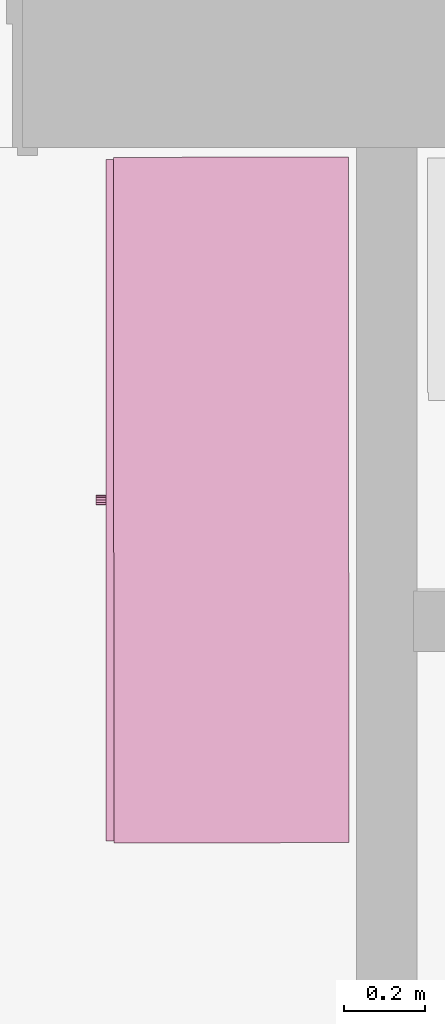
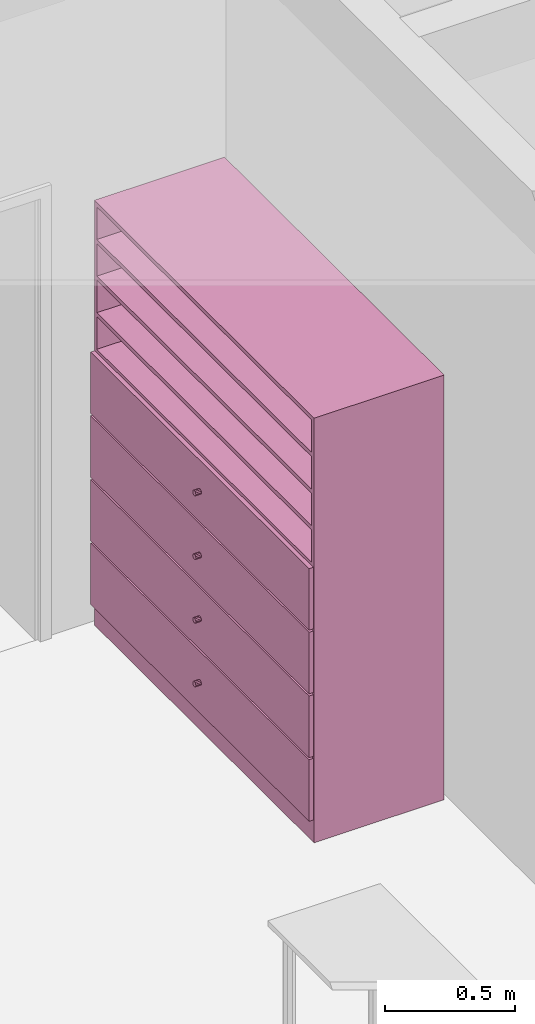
# One storey, part 139 of 194: 1 furnishing.
"""IFC2X3 building model written with IfcOpenShell, lengths in millimetres."""

from ifc_helpers import new_model, entity, si_unit, converted_unit, derived_unit, money_unit, direction, frame, origin_with_axes, place, context, subcontext, project, spatial, faceted_brep, source, transform, mapped, type_object, element, save


model = new_model("IFC2X3")

# Units and contexts
model_context = context("Model", 3, precision=1e-05, world=origin_with_axes(), true_north=direction((0.0, 1.0)))
body_context = subcontext(model_context, "Body", "Model", "MODEL_VIEW")
ifc_project = project(units=[si_unit("LENGTHUNIT", "METRE", prefix="MILLI"), si_unit("AREAUNIT", "SQUARE_METRE"), si_unit("VOLUMEUNIT", "CUBIC_METRE"), converted_unit("PLANEANGLEUNIT", "DEGREE", entity("IfcPlaneAngleMeasure", 0.0174532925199), si_unit("PLANEANGLEUNIT", "RADIAN"), dimensions=[0, 0, 0, 0, 0, 0, 0]), si_unit("SOLIDANGLEUNIT", "STERADIAN"), money_unit("EUR"), converted_unit("TIMEUNIT", "Year", entity("IfcTimeMeasure", 31556926.0), si_unit("TIMEUNIT", "SECOND"), dimensions=[0, 0, 1, 0, 0, 0, 0]), si_unit("MASSUNIT", "GRAM", prefix="KILO"), si_unit("THERMODYNAMICTEMPERATUREUNIT", "DEGREE_CELSIUS"), si_unit("LUMINOUSINTENSITYUNIT", "LUMEN"), si_unit("ENERGYUNIT", "JOULE", prefix="MEGA"), derived_unit("THERMALCONDUCTANCEUNIT", [(si_unit("POWERUNIT", "WATT"), 1), (si_unit("LENGTHUNIT", "METRE"), -1), (si_unit("THERMODYNAMICTEMPERATUREUNIT", "KELVIN"), -1)]), derived_unit("SPECIFICHEATCAPACITYUNIT", [(si_unit("ENERGYUNIT", "JOULE"), 1), (si_unit("MASSUNIT", "GRAM", prefix="KILO"), -1), (si_unit("THERMODYNAMICTEMPERATUREUNIT", "KELVIN"), -1)]), derived_unit("MASSDENSITYUNIT", [(si_unit("MASSUNIT", "GRAM", prefix="KILO"), 1), (si_unit("VOLUMEUNIT", "CUBIC_METRE"), -1)])], contexts=[model_context])

# Site, building, storey
site_placement = place(None, origin_with_axes())
site = spatial("IfcSite", under=ifc_project, at=site_placement, Name="Site", CompositionType="ELEMENT")
building_placement = place(site_placement, origin_with_axes())
building = spatial("IfcBuilding", under=site, at=building_placement, Name="Building", CompositionType="ELEMENT")
storey_placement = place(building_placement, frame((0.0, 0.0, 3000.0), z_axis=(0.0, 0.0, 1.0), x_axis=(1.0, 0.0, 0.0)))
storey = spatial("IfcBuildingStorey", under=building, at=storey_placement, Name="2 KORRUS", CompositionType="ELEMENT", Elevation=3000.0)

# Furnishing
furnishing_element_type = type_object("IfcFurnishingElementType", Name="Model Element 129")
shared_shape = source(origin_with_axes(), body_context, "Body", "Brep", [
    faceted_brep([(-1693.4828307, 19.0, 0.0), (-1693.4828307, 599.467164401, 0.0), (0.0, 599.467164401, 0.0), (0.0, 19.0, 0.0), (-1693.4828307, 19.0, 100.0), (-1693.4828307, 599.467164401, 100.0), (0.0, 599.467164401, 100.0), (0.0, 19.0, 100.0)], [[[0, 1, 2, 3]], [[0, 4, 5, 1]], [[1, 5, 6, 2]], [[2, 6, 7, 3]], [[3, 7, 4, 0]], [[7, 6, 5, 4]]]),
    faceted_brep([(-19.0, 599.467164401, 119.0), (-19.0, 599.467164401, 1981.0), (-19.0, 580.467164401, 1981.0), (-19.0, 580.467164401, 119.0), (-1674.4828307, 599.467164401, 119.0), (-1674.4828307, 599.467164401, 1981.0), (-1674.4828307, 580.467164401, 1981.0), (-1674.4828307, 580.467164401, 119.0)], [[[0, 1, 2, 3]], [[4, 5, 1, 0]], [[1, 5, 6, 2]], [[3, 2, 6, 7]], [[0, 3, 7, 4]], [[7, 6, 5, 4]]]),
    faceted_brep([(-1693.4828307, 19.0, 100.0), (-1693.4828307, 599.467164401, 100.0), (-1674.4828307, 599.467164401, 100.0), (-1674.4828307, 19.0, 100.0), (-1693.4828307, 19.0, 2000.0), (-1693.4828307, 599.467164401, 2000.0), (-1674.4828307, 599.467164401, 2000.0), (-1674.4828307, 19.0, 2000.0)], [[[0, 1, 2, 3]], [[0, 4, 5, 1]], [[1, 5, 6, 2]], [[2, 6, 7, 3]], [[3, 7, 4, 0]], [[7, 6, 5, 4]]]),
    faceted_brep([(-19.0, 19.0, 100.0), (-19.0, 599.467164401, 100.0), (0.0, 599.467164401, 100.0), (0.0, 19.0, 100.0), (-19.0, 19.0, 2000.0), (-19.0, 599.467164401, 2000.0), (0.0, 599.467164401, 2000.0), (0.0, 19.0, 2000.0)], [[[0, 1, 2, 3]], [[0, 4, 5, 1]], [[1, 5, 6, 2]], [[2, 6, 7, 3]], [[3, 7, 4, 0]], [[7, 6, 5, 4]]]),
    faceted_brep([(-1674.4828307, 19.0, 100.0), (-1674.4828307, 599.467164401, 100.0), (-19.0, 599.467164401, 100.0), (-19.0, 19.0, 100.0), (-1674.4828307, 19.0, 119.0), (-1674.4828307, 599.467164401, 119.0), (-19.0, 599.467164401, 119.0), (-19.0, 19.0, 119.0)], [[[0, 1, 2, 3]], [[0, 4, 5, 1]], [[1, 5, 6, 2]], [[2, 6, 7, 3]], [[3, 7, 4, 0]], [[7, 6, 5, 4]]]),
    faceted_brep([(-1674.4828307, 19.0, 1981.0), (-1674.4828307, 599.467164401, 1981.0), (-19.0, 599.467164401, 1981.0), (-19.0, 19.0, 1981.0), (-1674.4828307, 19.0, 2000.0), (-1674.4828307, 599.467164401, 2000.0), (-19.0, 599.467164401, 2000.0), (-19.0, 19.0, 2000.0)], [[[0, 1, 2, 3]], [[0, 4, 5, 1]], [[1, 5, 6, 2]], [[2, 6, 7, 3]], [[3, 7, 4, 0]], [[7, 6, 5, 4]]]),
    faceted_brep([(-5.0, 19.0, 105.0), (-5.0, 0.0, 105.0), (-1688.4828307, 0.0, 105.0), (-1688.4828307, 19.0, 105.0), (-5.0, 19.0, 395.0), (-5.0, 0.0, 395.0), (-1688.4828307, 0.0, 395.0), (-1688.4828307, 19.0, 395.0)], [[[0, 1, 2, 3]], [[4, 5, 1, 0]], [[1, 5, 6, 2]], [[3, 2, 6, 7]], [[0, 3, 7, 4]], [[7, 6, 5, 4]]]),
    faceted_brep([(-857.133720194, 0.0, 244.0), (-858.741415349, 0.0, 250.0), (-857.133720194, 0.0, 256.0), (-852.741415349, 0.0, 260.392304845), (-846.741415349, 0.0, 262.0), (-840.741415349, 0.0, 260.392304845), (-836.349110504, 0.0, 256.0), (-834.741415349, 0.0, 250.0), (-836.349110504, 0.0, 244.0), (-840.741415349, 0.0, 239.607695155), (-846.741415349, 0.0, 238.0), (-852.741415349, 0.0, 239.607695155), (-857.133720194, -25.0, 244.0), (-858.741415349, -25.0, 250.0), (-857.133720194, -25.0, 256.0), (-852.741415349, -25.0, 260.392304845), (-846.741415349, -25.0, 262.0), (-840.741415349, -25.0, 260.392304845), (-836.349110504, -25.0, 256.0), (-834.741415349, -25.0, 250.0), (-836.349110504, -25.0, 244.0), (-840.741415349, -25.0, 239.607695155), (-846.741415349, -25.0, 238.0), (-852.741415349, -25.0, 239.607695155)], [[[0, 1, 2, 3, 4, 5, 6, 7, 8, 9, 10, 11]], [[0, 12, 13, 1]], [[1, 13, 14, 2]], [[2, 14, 15, 3]], [[3, 15, 16, 4]], [[4, 16, 17, 5]], [[5, 17, 18, 6]], [[6, 18, 19, 7]], [[7, 19, 20, 8]], [[8, 20, 21, 9]], [[9, 21, 22, 10]], [[10, 22, 23, 11]], [[11, 23, 12, 0]], [[12, 23, 22, 21, 20, 19, 18, 17, 16, 15, 14, 13]]]),
    faceted_brep([(-5.0, 19.0, 405.0), (-5.0, 0.0, 405.0), (-1688.4828307, 0.0, 405.0), (-1688.4828307, 19.0, 405.0), (-5.0, 19.0, 695.0), (-5.0, 0.0, 695.0), (-1688.4828307, 0.0, 695.0), (-1688.4828307, 19.0, 695.0)], [[[0, 1, 2, 3]], [[4, 5, 1, 0]], [[1, 5, 6, 2]], [[3, 2, 6, 7]], [[0, 3, 7, 4]], [[7, 6, 5, 4]]]),
    faceted_brep([(-857.133720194, 0.0, 544.0), (-858.741415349, 0.0, 550.0), (-857.133720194, 0.0, 556.0), (-852.741415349, 0.0, 560.392304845), (-846.741415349, 0.0, 562.0), (-840.741415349, 0.0, 560.392304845), (-836.349110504, 0.0, 556.0), (-834.741415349, 0.0, 550.0), (-836.349110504, 0.0, 544.0), (-840.741415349, 0.0, 539.607695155), (-846.741415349, 0.0, 538.0), (-852.741415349, 0.0, 539.607695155), (-857.133720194, -25.0, 544.0), (-858.741415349, -25.0, 550.0), (-857.133720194, -25.0, 556.0), (-852.741415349, -25.0, 560.392304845), (-846.741415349, -25.0, 562.0), (-840.741415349, -25.0, 560.392304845), (-836.349110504, -25.0, 556.0), (-834.741415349, -25.0, 550.0), (-836.349110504, -25.0, 544.0), (-840.741415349, -25.0, 539.607695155), (-846.741415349, -25.0, 538.0), (-852.741415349, -25.0, 539.607695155)], [[[0, 1, 2, 3, 4, 5, 6, 7, 8, 9, 10, 11]], [[0, 12, 13, 1]], [[1, 13, 14, 2]], [[2, 14, 15, 3]], [[3, 15, 16, 4]], [[4, 16, 17, 5]], [[5, 17, 18, 6]], [[6, 18, 19, 7]], [[7, 19, 20, 8]], [[8, 20, 21, 9]], [[9, 21, 22, 10]], [[10, 22, 23, 11]], [[11, 23, 12, 0]], [[12, 23, 22, 21, 20, 19, 18, 17, 16, 15, 14, 13]]]),
    faceted_brep([(-5.0, 19.0, 705.0), (-5.0, 0.0, 705.0), (-1688.4828307, 0.0, 705.0), (-1688.4828307, 19.0, 705.0), (-5.0, 19.0, 995.0), (-5.0, 0.0, 995.0), (-1688.4828307, 0.0, 995.0), (-1688.4828307, 19.0, 995.0)], [[[0, 1, 2, 3]], [[4, 5, 1, 0]], [[1, 5, 6, 2]], [[3, 2, 6, 7]], [[0, 3, 7, 4]], [[7, 6, 5, 4]]]),
    faceted_brep([(-857.133720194, 0.0, 844.0), (-858.741415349, 0.0, 850.0), (-857.133720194, 0.0, 856.0), (-852.741415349, 0.0, 860.392304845), (-846.741415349, 0.0, 862.0), (-840.741415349, 0.0, 860.392304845), (-836.349110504, 0.0, 856.0), (-834.741415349, 0.0, 850.0), (-836.349110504, 0.0, 844.0), (-840.741415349, 0.0, 839.607695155), (-846.741415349, 0.0, 838.0), (-852.741415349, 0.0, 839.607695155), (-857.133720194, -25.0, 844.0), (-858.741415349, -25.0, 850.0), (-857.133720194, -25.0, 856.0), (-852.741415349, -25.0, 860.392304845), (-846.741415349, -25.0, 862.0), (-840.741415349, -25.0, 860.392304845), (-836.349110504, -25.0, 856.0), (-834.741415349, -25.0, 850.0), (-836.349110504, -25.0, 844.0), (-840.741415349, -25.0, 839.607695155), (-846.741415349, -25.0, 838.0), (-852.741415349, -25.0, 839.607695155)], [[[0, 1, 2, 3, 4, 5, 6, 7, 8, 9, 10, 11]], [[0, 12, 13, 1]], [[1, 13, 14, 2]], [[2, 14, 15, 3]], [[3, 15, 16, 4]], [[4, 16, 17, 5]], [[5, 17, 18, 6]], [[6, 18, 19, 7]], [[7, 19, 20, 8]], [[8, 20, 21, 9]], [[9, 21, 22, 10]], [[10, 22, 23, 11]], [[11, 23, 12, 0]], [[12, 23, 22, 21, 20, 19, 18, 17, 16, 15, 14, 13]]]),
    faceted_brep([(-5.0, 19.0, 1005.0), (-5.0, 0.0, 1005.0), (-1688.4828307, 0.0, 1005.0), (-1688.4828307, 19.0, 1005.0), (-5.0, 19.0, 1295.0), (-5.0, 0.0, 1295.0), (-1688.4828307, 0.0, 1295.0), (-1688.4828307, 19.0, 1295.0)], [[[0, 1, 2, 3]], [[4, 5, 1, 0]], [[1, 5, 6, 2]], [[3, 2, 6, 7]], [[0, 3, 7, 4]], [[7, 6, 5, 4]]]),
    faceted_brep([(-857.133720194, 0.0, 1144.0), (-858.741415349, 0.0, 1150.0), (-857.133720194, 0.0, 1156.0), (-852.741415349, 0.0, 1160.39230485), (-846.741415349, 0.0, 1162.0), (-840.741415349, 0.0, 1160.39230485), (-836.349110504, 0.0, 1156.0), (-834.741415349, 0.0, 1150.0), (-836.349110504, 0.0, 1144.0), (-840.741415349, 0.0, 1139.60769515), (-846.741415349, 0.0, 1138.0), (-852.741415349, 0.0, 1139.60769515), (-857.133720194, -25.0, 1144.0), (-858.741415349, -25.0, 1150.0), (-857.133720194, -25.0, 1156.0), (-852.741415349, -25.0, 1160.39230485), (-846.741415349, -25.0, 1162.0), (-840.741415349, -25.0, 1160.39230485), (-836.349110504, -25.0, 1156.0), (-834.741415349, -25.0, 1150.0), (-836.349110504, -25.0, 1144.0), (-840.741415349, -25.0, 1139.60769515), (-846.741415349, -25.0, 1138.0), (-852.741415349, -25.0, 1139.60769515)], [[[0, 1, 2, 3, 4, 5, 6, 7, 8, 9, 10, 11]], [[0, 12, 13, 1]], [[1, 13, 14, 2]], [[2, 14, 15, 3]], [[3, 15, 16, 4]], [[4, 16, 17, 5]], [[5, 17, 18, 6]], [[6, 18, 19, 7]], [[7, 19, 20, 8]], [[8, 20, 21, 9]], [[9, 21, 22, 10]], [[10, 22, 23, 11]], [[11, 23, 12, 0]], [[12, 23, 22, 21, 20, 19, 18, 17, 16, 15, 14, 13]]]),
    faceted_brep([(-19.0, 19.0, 390.5), (-19.0, 19.0, 409.5), (-1674.4828307, 19.0, 409.5), (-1674.4828307, 19.0, 390.5), (-19.0, 580.467164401, 390.5), (-19.0, 580.467164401, 409.5), (-1674.4828307, 580.467164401, 409.5), (-1674.4828307, 580.467164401, 390.5)], [[[0, 1, 2, 3]], [[4, 5, 1, 0]], [[1, 5, 6, 2]], [[3, 2, 6, 7]], [[0, 3, 7, 4]], [[7, 6, 5, 4]]]),
    faceted_brep([(-19.0, 19.0, 690.5), (-19.0, 19.0, 709.5), (-1674.4828307, 19.0, 709.5), (-1674.4828307, 19.0, 690.5), (-19.0, 580.467164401, 690.5), (-19.0, 580.467164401, 709.5), (-1674.4828307, 580.467164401, 709.5), (-1674.4828307, 580.467164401, 690.5)], [[[0, 1, 2, 3]], [[4, 5, 1, 0]], [[1, 5, 6, 2]], [[3, 2, 6, 7]], [[0, 3, 7, 4]], [[7, 6, 5, 4]]]),
    faceted_brep([(-19.0, 19.0, 990.5), (-19.0, 19.0, 1009.5), (-1674.4828307, 19.0, 1009.5), (-1674.4828307, 19.0, 990.5), (-19.0, 580.467164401, 990.5), (-19.0, 580.467164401, 1009.5), (-1674.4828307, 580.467164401, 1009.5), (-1674.4828307, 580.467164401, 990.5)], [[[0, 1, 2, 3]], [[4, 5, 1, 0]], [[1, 5, 6, 2]], [[3, 2, 6, 7]], [[0, 3, 7, 4]], [[7, 6, 5, 4]]]),
    faceted_brep([(-19.0, 19.0, 1290.5), (-19.0, 19.0, 1309.5), (-1674.4828307, 19.0, 1309.5), (-1674.4828307, 19.0, 1290.5), (-19.0, 580.467164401, 1290.5), (-19.0, 580.467164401, 1309.5), (-1674.4828307, 580.467164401, 1309.5), (-1674.4828307, 580.467164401, 1290.5)], [[[0, 1, 2, 3]], [[4, 5, 1, 0]], [[1, 5, 6, 2]], [[3, 2, 6, 7]], [[0, 3, 7, 4]], [[7, 6, 5, 4]]]),
    faceted_brep([(-1674.4828307, 19.0, 1463.125), (-1674.4828307, 580.467164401, 1463.125), (-19.0, 580.467164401, 1463.125), (-19.0, 19.0, 1463.125), (-1674.4828307, 19.0, 1482.125), (-1674.4828307, 580.467164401, 1482.125), (-19.0, 580.467164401, 1482.125), (-19.0, 19.0, 1482.125)], [[[0, 1, 2, 3]], [[0, 4, 5, 1]], [[1, 5, 6, 2]], [[2, 6, 7, 3]], [[3, 7, 4, 0]], [[7, 6, 5, 4]]]),
    faceted_brep([(-1674.4828307, 19.0, 1635.75), (-1674.4828307, 580.467164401, 1635.75), (-19.0, 580.467164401, 1635.75), (-19.0, 19.0, 1635.75), (-1674.4828307, 19.0, 1654.75), (-1674.4828307, 580.467164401, 1654.75), (-19.0, 580.467164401, 1654.75), (-19.0, 19.0, 1654.75)], [[[0, 1, 2, 3]], [[0, 4, 5, 1]], [[1, 5, 6, 2]], [[2, 6, 7, 3]], [[3, 7, 4, 0]], [[7, 6, 5, 4]]]),
    faceted_brep([(-1674.4828307, 19.0, 1808.375), (-1674.4828307, 580.467164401, 1808.375), (-19.0, 580.467164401, 1808.375), (-19.0, 19.0, 1808.375), (-1674.4828307, 19.0, 1827.375), (-1674.4828307, 580.467164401, 1827.375), (-19.0, 580.467164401, 1827.375), (-19.0, 19.0, 1827.375)], [[[0, 1, 2, 3]], [[0, 4, 5, 1]], [[1, 5, 6, 2]], [[2, 6, 7, 3]], [[3, 7, 4, 0]], [[7, 6, 5, 4]]]),
])
furnishing_placement = place(storey_placement, frame((81389.5627667, 38865.8959974, 0.0), z_axis=(0.0, 0.0, 1.0), x_axis=(0.00064265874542, -0.999999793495, 0.0)))
element("IfcFurnishingElement", 1, at=furnishing_placement, inside=storey, type_object=furnishing_element_type, Name="FU - 001", context=body_context, shape_type="MappedRepresentation", body=[
    mapped(shared_shape, transform((0.0, 0.0, 0.0))),
])

save(model, "model.ifc")
